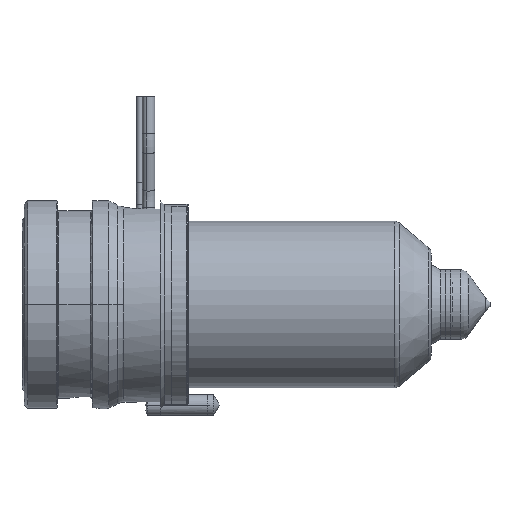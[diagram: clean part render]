
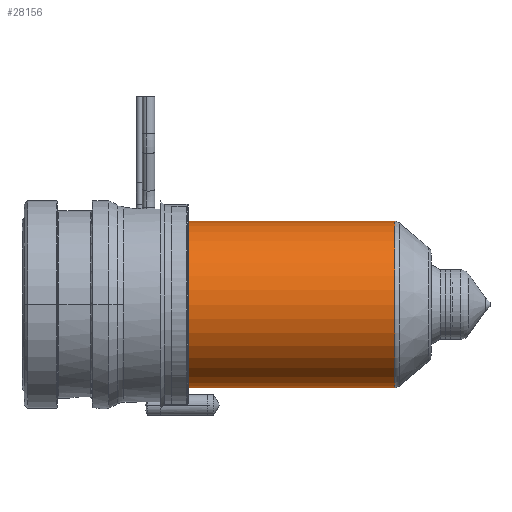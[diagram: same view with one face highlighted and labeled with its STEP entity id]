
A CAD part, left-side view. The second image highlights one B-rep face of the part: STEP entity #28156.
In plain terms, the highlighted cylindrical face has radius 12 mm (diameter 24 mm), a partial arc.
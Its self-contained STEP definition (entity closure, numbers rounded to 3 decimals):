
#27641=CARTESIAN_POINT('',(0.,-24.,0.));
#27642=DIRECTION('',(0.,1.,0.));
#27643=DIRECTION('',(0.,0.,-1.));
#27644=AXIS2_PLACEMENT_3D('',#27641,#27642,#27643);
#27649=DIRECTION('',(0.,1.,0.));
#27650=VECTOR('',#27649,29.736);
#27651=CARTESIAN_POINT('',(0.,-53.736,12.));
#27652=LINE('',#27651,#27650);
#27664=DIRECTION('',(0.,1.,0.));
#27665=VECTOR('',#27664,29.736);
#27666=CARTESIAN_POINT('',(0.,-53.736,-12.));
#27667=LINE('',#27666,#27665);
#27695=CARTESIAN_POINT('',(0.,-53.736,0.));
#27696=DIRECTION('',(0.,-1.,0.));
#27697=DIRECTION('',(0.,0.,1.));
#27698=AXIS2_PLACEMENT_3D('',#27695,#27696,#27697);
#28025=CARTESIAN_POINT('',(0.,-53.736,12.));
#28026=CARTESIAN_POINT('',(0.,-24.,12.));
#28027=VERTEX_POINT('',#28025);
#28028=VERTEX_POINT('',#28026);
#28029=CARTESIAN_POINT('',(0.,-53.736,-12.));
#28030=CARTESIAN_POINT('',(0.,-24.,-12.));
#28031=VERTEX_POINT('',#28029);
#28032=VERTEX_POINT('',#28030);
#28142=CARTESIAN_POINT('',(0.,-17.625,0.));
#28143=DIRECTION('',(0.,-1.,0.));
#28144=DIRECTION('',(0.,0.,1.));
#28145=AXIS2_PLACEMENT_3D('',#28142,#28143,#28144);
#28146=CYLINDRICAL_SURFACE('',#28145,12.);
#28148=ORIENTED_EDGE('',*,*,#28147,.F.);
#28150=ORIENTED_EDGE('',*,*,#28149,.T.);
#28152=ORIENTED_EDGE('',*,*,#28151,.T.);
#28153=ORIENTED_EDGE('',*,*,#28135,.T.);
#28154=EDGE_LOOP('',(#28148,#28150,#28152,#28153));
#28155=FACE_OUTER_BOUND('',#28154,.F.);
#28156=ADVANCED_FACE('',(#28155),#28146,.T.);
#27645=CIRCLE('',#27644,12.);
#27699=CIRCLE('',#27698,12.);
#28135=EDGE_CURVE('',#28032,#28028,#27645,.T.);
#28147=EDGE_CURVE('',#28027,#28028,#27652,.T.);
#28149=EDGE_CURVE('',#28027,#28031,#27699,.T.);
#28151=EDGE_CURVE('',#28031,#28032,#27667,.T.);
